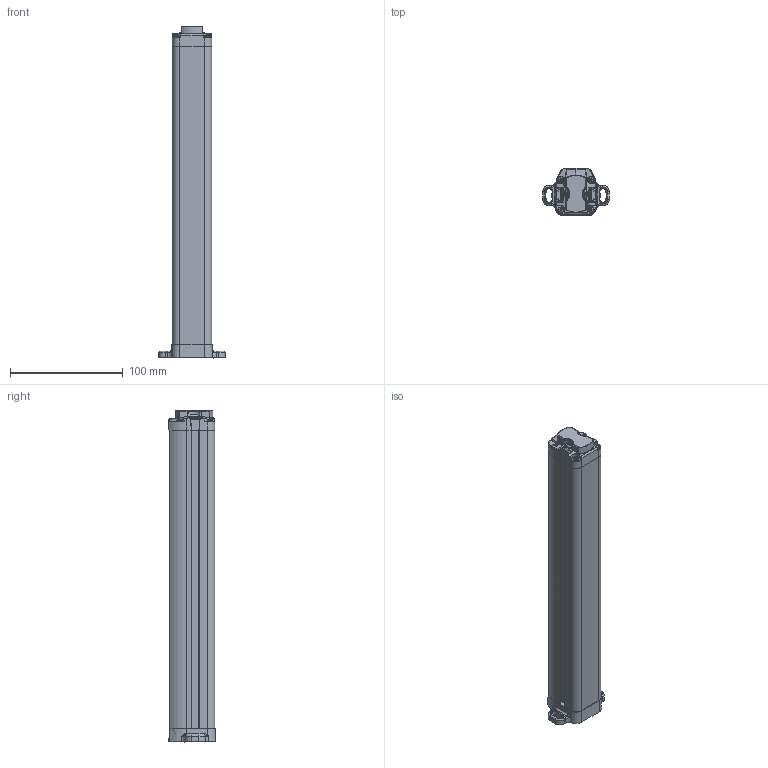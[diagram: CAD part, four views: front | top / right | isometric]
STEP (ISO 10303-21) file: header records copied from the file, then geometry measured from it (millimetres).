
FILE_DESCRIPTION(/* description */ (''),/* implementation_level */ '2;1');
FILE_NAME(/* name */ 'DSD-0588.stp',/* time_stamp */ '2015-03-10T15:32:00+01:00',/* author */ (''),/* organization */ (''),/* preprocessor_version */ 'ST-DEVELOPER v11',/* originating_system */ 'SIEMENS PLM Software NX 7.5',/* authorisation */ '');
FILE_SCHEMA (('AUTOMOTIVE_DESIGN { 1 0 10303 214 1 1 1 1 }'));
Products named in the file (1): model5
Bounding box: 59 x 41.56 x 294.03 mm (x, y, z)
Surface area: 57402.7 mm2 (no closed solid volume)
Topology: 0 solids, 873 shells, 873 faces, 4231 edges, 4199 vertices
Faces by surface type: bspline 303, plane 253, cylinder 175, torus 88, cone 41, sphere 13
Full cylindrical faces by diameter (mm): 5 x8
Entity records: 59484 total; most frequent: CARTESIAN_POINT 25359, ORIENTED_EDGE 4199, VERTEX_POINT 4199, EDGE_CURVE 4199, DIRECTION 4111, B_SPLINE_CURVE_WITH_KNOTS 1736, AXIS2_PLACEMENT_3D 1574, CIRCLE 1003
